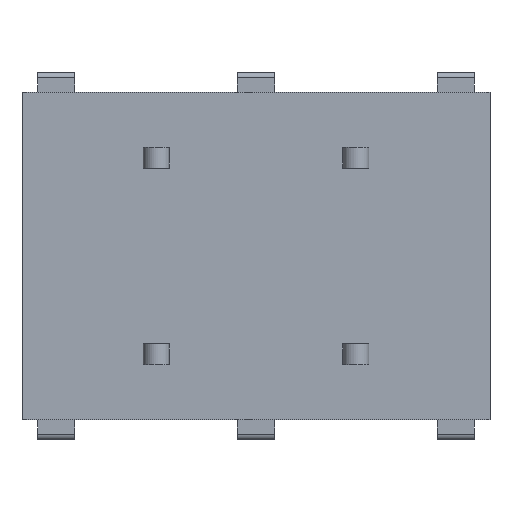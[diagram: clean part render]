
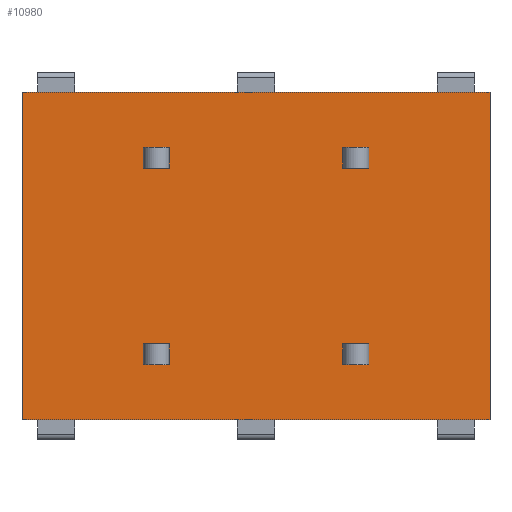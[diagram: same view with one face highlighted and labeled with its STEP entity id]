
A CAD part, front view. The second image highlights one B-rep face of the part: STEP entity #10980.
In plain terms, the highlighted planar face has unit normal (0, -1, 0).
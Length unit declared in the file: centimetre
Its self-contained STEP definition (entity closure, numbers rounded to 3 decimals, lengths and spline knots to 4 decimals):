
#751=VERTEX_POINT('',#14514);
#752=VERTEX_POINT('',#14515);
#755=VERTEX_POINT('',#14523);
#761=VERTEX_POINT('',#14538);
#762=VERTEX_POINT('',#14539);
#765=VERTEX_POINT('',#14547);
#767=VERTEX_POINT('',#14553);
#788=VERTEX_POINT('',#14614);
#800=VERTEX_POINT('',#14659);
#801=VERTEX_POINT('',#14660);
#802=VERTEX_POINT('',#14662);
#803=VERTEX_POINT('',#14664);
#804=VERTEX_POINT('',#14667);
#805=VERTEX_POINT('',#14668);
#806=VERTEX_POINT('',#14670);
#807=VERTEX_POINT('',#14672);
#808=VERTEX_POINT('',#14675);
#809=VERTEX_POINT('',#14676);
#810=VERTEX_POINT('',#14678);
#811=VERTEX_POINT('',#14680);
#1872=VECTOR('',#12237,1.);
#1876=VECTOR('',#12242,1.);
#1882=VECTOR('',#12252,1.);
#1885=VECTOR('',#12258,1.);
#1888=VECTOR('',#12262,1.);
#1910=VECTOR('',#12311,1.);
#1911=VECTOR('',#12313,1.);
#1915=VECTOR('',#12318,1.);
#1934=VECTOR('',#12346,1.);
#1935=VECTOR('',#12347,1.);
#1936=VECTOR('',#12348,1.);
#1937=VECTOR('',#12349,1.);
#1938=VECTOR('',#12350,1.);
#1939=VECTOR('',#12351,1.);
#1940=VECTOR('',#12352,1.);
#1941=VECTOR('',#12353,1.);
#1942=VECTOR('',#12354,1.);
#1943=VECTOR('',#12355,1.);
#1944=VECTOR('',#12356,1.);
#1945=VECTOR('',#12357,1.);
#3176=LINE('',#14513,#1872);
#3180=LINE('',#14522,#1876);
#3186=LINE('',#14537,#1882);
#3189=LINE('',#14546,#1885);
#3192=LINE('',#14552,#1888);
#3214=LINE('',#14611,#1910);
#3215=LINE('',#14613,#1911);
#3219=LINE('',#14620,#1915);
#3238=LINE('',#14658,#1934);
#3239=LINE('',#14661,#1935);
#3240=LINE('',#14663,#1936);
#3241=LINE('',#14665,#1937);
#3242=LINE('',#14666,#1938);
#3243=LINE('',#14669,#1939);
#3244=LINE('',#14671,#1940);
#3245=LINE('',#14673,#1941);
#3246=LINE('',#14674,#1942);
#3247=LINE('',#14677,#1943);
#3248=LINE('',#14679,#1944);
#3249=LINE('',#14681,#1945);
#4551=EDGE_CURVE('',#751,#752,#3176,.T.);
#4555=EDGE_CURVE('',#755,#751,#3180,.T.);
#4562=EDGE_CURVE('',#761,#762,#3186,.T.);
#4566=EDGE_CURVE('',#765,#761,#3189,.T.);
#4569=EDGE_CURVE('',#767,#765,#3192,.T.);
#4598=EDGE_CURVE('',#762,#767,#3214,.T.);
#4599=EDGE_CURVE('',#788,#755,#3215,.T.);
#4603=EDGE_CURVE('',#752,#788,#3219,.T.);
#4622=EDGE_CURVE('',#800,#801,#3238,.T.);
#4623=EDGE_CURVE('',#800,#802,#3239,.T.);
#4624=EDGE_CURVE('',#802,#803,#3240,.T.);
#4625=EDGE_CURVE('',#803,#801,#3241,.T.);
#4626=EDGE_CURVE('',#804,#805,#3242,.T.);
#4627=EDGE_CURVE('',#806,#804,#3243,.T.);
#4628=EDGE_CURVE('',#807,#806,#3244,.T.);
#4629=EDGE_CURVE('',#805,#807,#3245,.T.);
#4630=EDGE_CURVE('',#808,#809,#3246,.T.);
#4631=EDGE_CURVE('',#810,#808,#3247,.T.);
#4632=EDGE_CURVE('',#811,#810,#3248,.T.);
#4633=EDGE_CURVE('',#809,#811,#3249,.T.);
#6564=ORIENTED_EDGE('',*,*,#4622,.F.);
#6565=ORIENTED_EDGE('',*,*,#4623,.T.);
#6566=ORIENTED_EDGE('',*,*,#4624,.T.);
#6567=ORIENTED_EDGE('',*,*,#4625,.T.);
#6568=ORIENTED_EDGE('',*,*,#4626,.F.);
#6569=ORIENTED_EDGE('',*,*,#4627,.F.);
#6570=ORIENTED_EDGE('',*,*,#4628,.F.);
#6571=ORIENTED_EDGE('',*,*,#4629,.F.);
#6572=ORIENTED_EDGE('',*,*,#4630,.F.);
#6573=ORIENTED_EDGE('',*,*,#4631,.F.);
#6574=ORIENTED_EDGE('',*,*,#4632,.F.);
#6575=ORIENTED_EDGE('',*,*,#4633,.F.);
#6576=ORIENTED_EDGE('',*,*,#4569,.T.);
#6577=ORIENTED_EDGE('',*,*,#4566,.T.);
#6578=ORIENTED_EDGE('',*,*,#4562,.T.);
#6579=ORIENTED_EDGE('',*,*,#4598,.T.);
#6580=ORIENTED_EDGE('',*,*,#4555,.T.);
#6581=ORIENTED_EDGE('',*,*,#4551,.T.);
#6582=ORIENTED_EDGE('',*,*,#4603,.T.);
#6583=ORIENTED_EDGE('',*,*,#4599,.T.);
#9599=EDGE_LOOP('',(#6564,#6565,#6566,#6567));
#9600=EDGE_LOOP('',(#6568,#6569,#6570,#6571));
#9601=EDGE_LOOP('',(#6572,#6573,#6574,#6575));
#9602=EDGE_LOOP('',(#6576,#6577,#6578,#6579));
#9603=EDGE_LOOP('',(#6580,#6581,#6582,#6583));
#10293=FACE_BOUND('',#9599,.T.);
#10294=FACE_BOUND('',#9600,.T.);
#10295=FACE_BOUND('',#9601,.T.);
#10296=FACE_BOUND('',#9602,.T.);
#10297=FACE_BOUND('',#9603,.T.);
#10980=ADVANCED_FACE('',(#10293,#10294,#10295,#10296,#10297),#11587,.T.);
#11587=PLANE('',#18732);
#12237=DIRECTION('',(0.,0.,1.));
#12242=DIRECTION('',(-1.,0.,0.));
#12252=DIRECTION('',(-1.,0.,0.));
#12258=DIRECTION('',(0.,0.,-1.));
#12262=DIRECTION('',(1.,0.,0.));
#12311=DIRECTION('',(0.,0.,1.));
#12313=DIRECTION('',(0.,0.,-1.));
#12318=DIRECTION('',(1.,0.,0.));
#12345=DIRECTION('',(0.,-1.,0.));
#12346=DIRECTION('',(1.,0.,0.));
#12347=DIRECTION('',(0.,0.,-1.));
#12348=DIRECTION('',(1.,0.,0.));
#12349=DIRECTION('',(0.,0.,1.));
#12350=DIRECTION('',(1.,0.,0.));
#12351=DIRECTION('',(0.,0.,-1.));
#12352=DIRECTION('',(-1.,0.,0.));
#12353=DIRECTION('',(0.,0.,1.));
#12354=DIRECTION('',(-1.,0.,0.));
#12355=DIRECTION('',(0.,0.,1.));
#12356=DIRECTION('',(1.,0.,0.));
#12357=DIRECTION('',(0.,0.,-1.));
#14513=CARTESIAN_POINT('',(-1.264,0.,0.1875));
#14514=CARTESIAN_POINT('',(-1.264,0.,0.335));
#14515=CARTESIAN_POINT('',(-1.264,0.,0.415));
#14522=CARTESIAN_POINT('',(-1.369,0.,0.335));
#14523=CARTESIAN_POINT('',(-1.164,0.,0.335));
#14537=CARTESIAN_POINT('',(-1.369,0.,-0.415));
#14538=CARTESIAN_POINT('',(-1.164,0.,-0.415));
#14539=CARTESIAN_POINT('',(-1.264,0.,-0.415));
#14546=CARTESIAN_POINT('',(-1.164,0.,-0.1875));
#14547=CARTESIAN_POINT('',(-1.164,0.,-0.335));
#14552=CARTESIAN_POINT('',(-1.369,0.,-0.335));
#14553=CARTESIAN_POINT('',(-1.264,0.,-0.335));
#14611=CARTESIAN_POINT('',(-1.264,0.,-0.1875));
#14613=CARTESIAN_POINT('',(-1.164,0.,0.1875));
#14614=CARTESIAN_POINT('',(-1.164,0.,0.415));
#14620=CARTESIAN_POINT('',(-1.369,0.,0.415));
#14657=CARTESIAN_POINT('',(-1.524,0.,0.));
#14658=CARTESIAN_POINT('',(0.,0.,0.625));
#14659=CARTESIAN_POINT('',(-1.726,0.,0.625));
#14660=CARTESIAN_POINT('',(0.06,0.,0.625));
#14661=CARTESIAN_POINT('',(-1.726,0.,0.625));
#14662=CARTESIAN_POINT('',(-1.726,0.,-0.625));
#14663=CARTESIAN_POINT('',(0.,0.,-0.625));
#14664=CARTESIAN_POINT('',(0.06,0.,-0.625));
#14665=CARTESIAN_POINT('',(0.06,0.,-0.625));
#14666=CARTESIAN_POINT('',(-0.297,0.,0.335));
#14667=CARTESIAN_POINT('',(-0.502,0.,0.335));
#14668=CARTESIAN_POINT('',(-0.402,0.,0.335));
#14669=CARTESIAN_POINT('',(-0.502,0.,0.1875));
#14670=CARTESIAN_POINT('',(-0.502,0.,0.415));
#14671=CARTESIAN_POINT('',(-0.297,0.,0.415));
#14672=CARTESIAN_POINT('',(-0.402,0.,0.415));
#14673=CARTESIAN_POINT('',(-0.402,0.,0.1875));
#14674=CARTESIAN_POINT('',(-0.297,0.,-0.335));
#14675=CARTESIAN_POINT('',(-0.402,0.,-0.335));
#14676=CARTESIAN_POINT('',(-0.502,0.,-0.335));
#14677=CARTESIAN_POINT('',(-0.402,0.,-0.1875));
#14678=CARTESIAN_POINT('',(-0.402,0.,-0.415));
#14679=CARTESIAN_POINT('',(-0.297,0.,-0.415));
#14680=CARTESIAN_POINT('',(-0.502,0.,-0.415));
#14681=CARTESIAN_POINT('',(-0.502,0.,-0.1875));
#18732=AXIS2_PLACEMENT_3D('',#14657,#12345,$);
